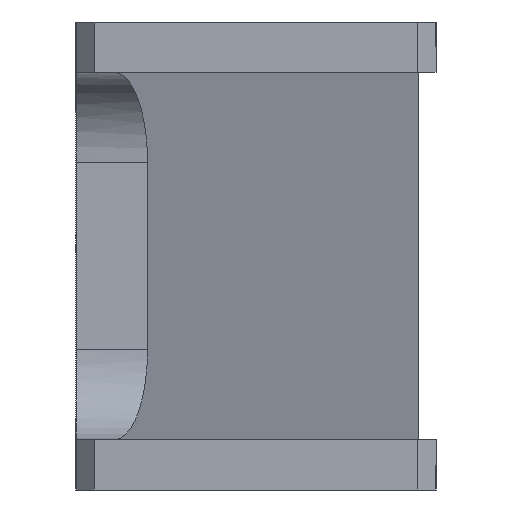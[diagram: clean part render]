
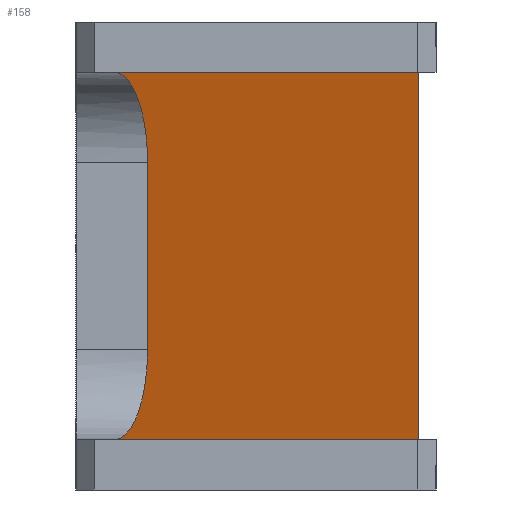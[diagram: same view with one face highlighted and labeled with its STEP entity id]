
A CAD part, left-side view. The second image highlights one B-rep face of the part: STEP entity #158.
In plain terms, the highlighted planar face has unit normal (-0.342, -0.94, 0).
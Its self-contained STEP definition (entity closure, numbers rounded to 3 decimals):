
#1 = CARTESIAN_POINT ( 'NONE',  ( 0.934, 11.313, 11.6 ) ) ;
#16 = VERTEX_POINT ( 'NONE', #127 ) ;
#20 =( BOUNDED_CURVE ( )  B_SPLINE_CURVE ( 3, ( #730, #1000, #484, #369 ),
 .UNSPECIFIED., .F., .F. ) 
 B_SPLINE_CURVE_WITH_KNOTS ( ( 4, 4 ),
 ( 3.142, 4.712 ),
 .UNSPECIFIED. ) 
 CURVE ( )  GEOMETRIC_REPRESENTATION_ITEM ( )  RATIONAL_B_SPLINE_CURVE ( ( 1., 0.805, 0.805, 1. ) ) 
 REPRESENTATION_ITEM ( '' )  );
#45 = VECTOR ( 'NONE', #822, 1000. ) ;
#68 = CARTESIAN_POINT ( 'NONE',  ( 10., 8.013, 9.1 ) ) ;
#91 = CARTESIAN_POINT ( 'NONE',  ( 10., 8.013, 3.9 ) ) ;
#94 = DIRECTION ( 'NONE',  ( -0.94, 0.342, 0. ) ) ;
#127 = CARTESIAN_POINT ( 'NONE',  ( 10., 8.013, 9.1 ) ) ;
#158 = ADVANCED_FACE ( 'NONE', ( #1041 ), #1154, .T. ) ;
#176 = VECTOR ( 'NONE', #94, 1000. ) ;
#179 = CARTESIAN_POINT ( 'NONE',  ( 10., 8.013, 3.9 ) ) ;
#212 = CARTESIAN_POINT ( 'NONE',  ( 30.642, 0.5, 11.6 ) ) ;
#292 = CARTESIAN_POINT ( 'NONE',  ( 30.642, 0.5, 9.1 ) ) ;
#322 = EDGE_CURVE ( 'NONE', #443, #16, #1153, .T. ) ;
#345 = EDGE_CURVE ( 'NONE', #725, #1156, #803, .T. ) ;
#369 = CARTESIAN_POINT ( 'NONE',  ( 7.5, 8.923, 11.6 ) ) ;
#370 = VERTEX_POINT ( 'NONE', #1161 ) ;
#399 = ORIENTED_EDGE ( 'NONE', *, *, #896, .T. ) ;
#421 =( BOUNDED_CURVE ( )  B_SPLINE_CURVE ( 3, ( #926, #1097, #1012, #179 ),
 .UNSPECIFIED., .F., .F. ) 
 B_SPLINE_CURVE_WITH_KNOTS ( ( 4, 4 ),
 ( 1.571, 3.142 ),
 .UNSPECIFIED. ) 
 CURVE ( )  GEOMETRIC_REPRESENTATION_ITEM ( )  RATIONAL_B_SPLINE_CURVE ( ( 1., 0.805, 0.805, 1. ) ) 
 REPRESENTATION_ITEM ( '' )  );
#430 = CARTESIAN_POINT ( 'NONE',  ( 0.934, 11.313, 9.1 ) ) ;
#443 = VERTEX_POINT ( 'NONE', #91 ) ;
#451 = LINE ( 'NONE', #1, #176 ) ;
#463 = VECTOR ( 'NONE', #985, 1000. ) ;
#465 = EDGE_CURVE ( 'NONE', #725, #443, #421, .T. ) ;
#483 = ORIENTED_EDGE ( 'NONE', *, *, #322, .F. ) ;
#484 = CARTESIAN_POINT ( 'NONE',  ( 8.964, 8.39, 11.6 ) ) ;
#505 = ORIENTED_EDGE ( 'NONE', *, *, #345, .T. ) ;
#519 = DIRECTION ( 'NONE',  ( -0.342, -0.94, 0. ) ) ;
#554 = VECTOR ( 'NONE', #805, 1000. ) ;
#559 = ORIENTED_EDGE ( 'NONE', *, *, #566, .F. ) ;
#565 = VERTEX_POINT ( 'NONE', #212 ) ;
#566 = EDGE_CURVE ( 'NONE', #16, #370, #20, .T. ) ;
#624 = ORIENTED_EDGE ( 'NONE', *, *, #465, .F. ) ;
#678 = AXIS2_PLACEMENT_3D ( 'NONE', #430, #519, #1052 ) ;
#695 = CARTESIAN_POINT ( 'NONE',  ( 30.642, 0.5, 1.4 ) ) ;
#725 = VERTEX_POINT ( 'NONE', #868 ) ;
#730 = CARTESIAN_POINT ( 'NONE',  ( 10., 8.013, 9.1 ) ) ;
#803 = LINE ( 'NONE', #1173, #554 ) ;
#805 = DIRECTION ( 'NONE',  ( 0.94, -0.342, 0. ) ) ;
#822 = DIRECTION ( 'NONE',  ( 0., 0., 1. ) ) ;
#868 = CARTESIAN_POINT ( 'NONE',  ( 7.5, 8.923, 1.4 ) ) ;
#896 = EDGE_CURVE ( 'NONE', #565, #370, #451, .T. ) ;
#926 = CARTESIAN_POINT ( 'NONE',  ( 7.5, 8.923, 1.4 ) ) ;
#985 = DIRECTION ( 'NONE',  ( 0., 0., 1. ) ) ;
#987 = EDGE_CURVE ( 'NONE', #1156, #565, #1029, .T. ) ;
#1000 = CARTESIAN_POINT ( 'NONE',  ( 10., 8.013, 10.564 ) ) ;
#1012 = CARTESIAN_POINT ( 'NONE',  ( 10., 8.013, 2.436 ) ) ;
#1029 = LINE ( 'NONE', #292, #45 ) ;
#1041 = FACE_OUTER_BOUND ( 'NONE', #1107, .T. ) ;
#1052 = DIRECTION ( 'NONE',  ( 0.94, -0.342, 0. ) ) ;
#1097 = CARTESIAN_POINT ( 'NONE',  ( 8.964, 8.39, 1.4 ) ) ;
#1107 = EDGE_LOOP ( 'NONE', ( #505, #1108, #399, #559, #483, #624 ) ) ;
#1108 = ORIENTED_EDGE ( 'NONE', *, *, #987, .T. ) ;
#1153 = LINE ( 'NONE', #68, #463 ) ;
#1154 = PLANE ( 'NONE',  #678 ) ;
#1156 = VERTEX_POINT ( 'NONE', #695 ) ;
#1161 = CARTESIAN_POINT ( 'NONE',  ( 7.5, 8.923, 11.6 ) ) ;
#1173 = CARTESIAN_POINT ( 'NONE',  ( 0.934, 11.313, 1.4 ) ) ;
